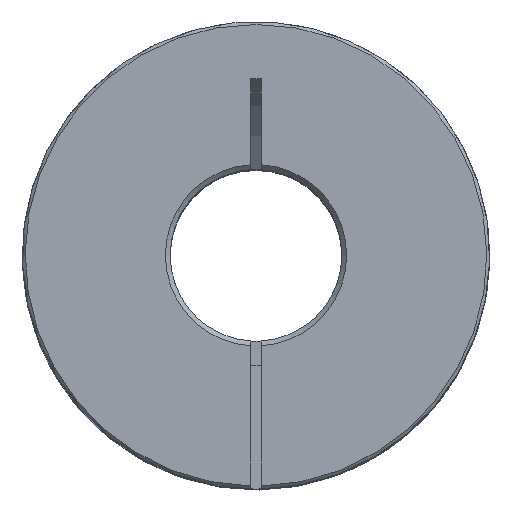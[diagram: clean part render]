
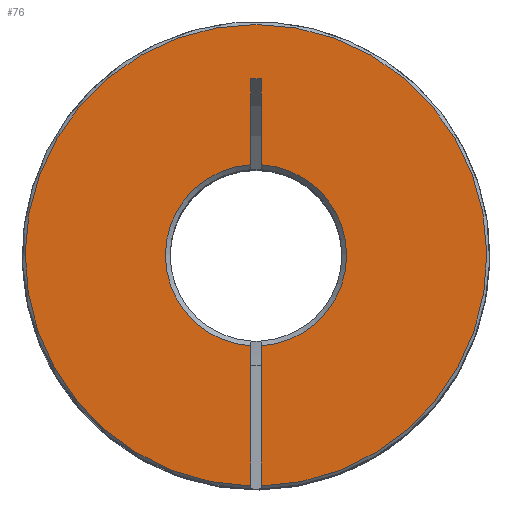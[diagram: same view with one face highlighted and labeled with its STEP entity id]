
A CAD part, top view. The second image highlights one B-rep face of the part: STEP entity #76.
In plain terms, the highlighted planar face has unit normal (0, 0, 1).
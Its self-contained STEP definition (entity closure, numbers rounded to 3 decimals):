
#76 = ADVANCED_FACE( '', ( #141 ), #142, .T. );
#141 = FACE_OUTER_BOUND( '', #313, .T. );
#142 = PLANE( '', #314 );
#313 = EDGE_LOOP( '', ( #487, #488, #489, #490, #491, #492, #493, #494 ) );
#314 = AXIS2_PLACEMENT_3D( '', #495, #496, #497 );
#487 = ORIENTED_EDGE( '', *, *, #954, .T. );
#488 = ORIENTED_EDGE( '', *, *, #955, .T. );
#489 = ORIENTED_EDGE( '', *, *, #956, .F. );
#490 = ORIENTED_EDGE( '', *, *, #957, .T. );
#491 = ORIENTED_EDGE( '', *, *, #958, .F. );
#492 = ORIENTED_EDGE( '', *, *, #959, .F. );
#493 = ORIENTED_EDGE( '', *, *, #960, .T. );
#494 = ORIENTED_EDGE( '', *, *, #961, .T. );
#495 = CARTESIAN_POINT( '', ( -24.5, 0., 31.75 ) );
#496 = DIRECTION( '', ( 0., 0., 1. ) );
#497 = DIRECTION( '', ( 1., 0., 0. ) );
#954 = EDGE_CURVE( '', #1098, #1099, #1100, .T. );
#955 = EDGE_CURVE( '', #1099, #1101, #1102, .T. );
#956 = EDGE_CURVE( '', #1103, #1101, #1104, .T. );
#957 = EDGE_CURVE( '', #1103, #1105, #1106, .F. );
#958 = EDGE_CURVE( '', #1107, #1105, #1108, .T. );
#959 = EDGE_CURVE( '', #1109, #1107, #1110, .T. );
#960 = EDGE_CURVE( '', #1109, #1111, #1112, .T. );
#961 = EDGE_CURVE( '', #1111, #1098, #1113, .F. );
#1098 = VERTEX_POINT( '', #1425 );
#1099 = VERTEX_POINT( '', #1426 );
#1100 = LINE( '', #1427, #1428 );
#1101 = VERTEX_POINT( '', #1429 );
#1102 = CIRCLE( '', #1430, 24.2 );
#1103 = VERTEX_POINT( '', #1431 );
#1104 = LINE( '', #1432, #1433 );
#1105 = VERTEX_POINT( '', #1434 );
#1106 = CIRCLE( '', #1435, 9.5 );
#1107 = VERTEX_POINT( '', #1436 );
#1108 = LINE( '', #1437, #1438 );
#1109 = VERTEX_POINT( '', #1439 );
#1110 = LINE( '', #1440, #1441 );
#1111 = VERTEX_POINT( '', #1442 );
#1112 = LINE( '', #1443, #1444 );
#1113 = CIRCLE( '', #1445, 9.5 );
#1425 = CARTESIAN_POINT( '', ( 0.55, -9.484, 31.75 ) );
#1426 = CARTESIAN_POINT( '', ( 0.55, -24.194, 31.75 ) );
#1427 = CARTESIAN_POINT( '', ( 0.55, 18.5, 31.75 ) );
#1428 = VECTOR( '', #2173, 1000. );
#1429 = CARTESIAN_POINT( '', ( -0.55, -24.194, 31.75 ) );
#1430 = AXIS2_PLACEMENT_3D( '', #2174, #2175, #2176 );
#1431 = CARTESIAN_POINT( '', ( -0.55, -9.484, 31.75 ) );
#1432 = CARTESIAN_POINT( '', ( -0.55, 18.5, 31.75 ) );
#1433 = VECTOR( '', #2177, 1000. );
#1434 = CARTESIAN_POINT( '', ( -0.55, 9.484, 31.75 ) );
#1435 = AXIS2_PLACEMENT_3D( '', #2178, #2179, #2180 );
#1436 = CARTESIAN_POINT( '', ( -0.55, 18.5, 31.75 ) );
#1437 = CARTESIAN_POINT( '', ( -0.55, 18.5, 31.75 ) );
#1438 = VECTOR( '', #2181, 1000. );
#1439 = CARTESIAN_POINT( '', ( 0.55, 18.5, 31.75 ) );
#1440 = CARTESIAN_POINT( '', ( 0.55, 18.5, 31.75 ) );
#1441 = VECTOR( '', #2182, 1000. );
#1442 = CARTESIAN_POINT( '', ( 0.55, 9.484, 31.75 ) );
#1443 = CARTESIAN_POINT( '', ( 0.55, 18.5, 31.75 ) );
#1444 = VECTOR( '', #2183, 1000. );
#1445 = AXIS2_PLACEMENT_3D( '', #2184, #2185, #2186 );
#2173 = DIRECTION( '', ( 0., -1., 0. ) );
#2174 = CARTESIAN_POINT( '', ( 0., 0., 31.75 ) );
#2175 = DIRECTION( '', ( 0., 0., 1. ) );
#2176 = DIRECTION( '', ( 1., 0., 0. ) );
#2177 = DIRECTION( '', ( 0., -1., 0. ) );
#2178 = CARTESIAN_POINT( '', ( 0., 0., 31.75 ) );
#2179 = DIRECTION( '', ( 0., 0., 1. ) );
#2180 = DIRECTION( '', ( 1., 0., 0. ) );
#2181 = DIRECTION( '', ( 0., -1., 0. ) );
#2182 = DIRECTION( '', ( -1., 0., 0. ) );
#2183 = DIRECTION( '', ( 0., -1., 0. ) );
#2184 = CARTESIAN_POINT( '', ( 0., 0., 31.75 ) );
#2185 = DIRECTION( '', ( 0., 0., 1. ) );
#2186 = DIRECTION( '', ( 1., 0., 0. ) );
